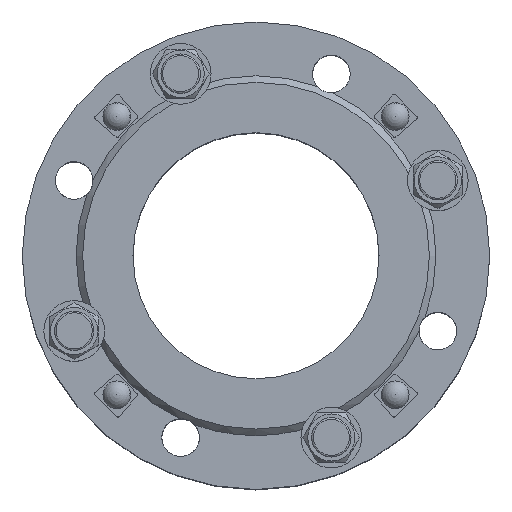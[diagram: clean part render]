
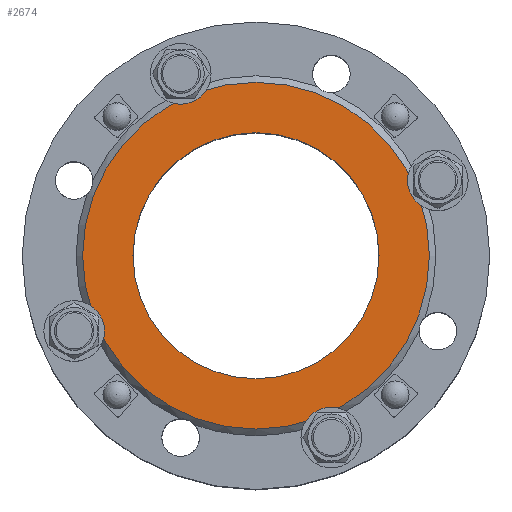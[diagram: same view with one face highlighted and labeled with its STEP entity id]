
A CAD part, top view. The second image highlights one B-rep face of the part: STEP entity #2674.
In plain terms, the highlighted planar face has unit normal (0, 0, 1) as drawn and (0, 0, -1) by its records, which use the part's own axes.
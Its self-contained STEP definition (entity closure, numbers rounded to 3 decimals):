
#2674=ADVANCED_FACE('',(#3899,#3901),#3903,.F.);
#3899=FACE_BOUND('',#3900,.T.);
#3900=EDGE_LOOP('',(#5651));
#3901=FACE_BOUND('',#3902,.T.);
#3902=EDGE_LOOP('',(#5652));
#3903=PLANE('',#3904);
#3904=AXIS2_PLACEMENT_3D('',#3905,#3906,#3907);
#3905=CARTESIAN_POINT('',(0.,0.,0.));
#3906=DIRECTION('',(0.,0.,1.));
#3907=DIRECTION('',(-1.,0.,0.));
#5651=ORIENTED_EDGE('',*,*,#6301,.F.);
#5652=ORIENTED_EDGE('',*,*,#6367,.T.);
#6301=EDGE_CURVE('',#7084,#7084,#7085,.T.);
#6367=EDGE_CURVE('',#7184,#7184,#7185,.T.);
#7084=VERTEX_POINT('',#12551);
#7085=CIRCLE('',#12552,105.7);
#7184=VERTEX_POINT('',#12801);
#7185=CIRCLE('',#12802,75.);
#12551=CARTESIAN_POINT('',(-105.7,0.,0.));
#12552=AXIS2_PLACEMENT_3D('',#12553,#12554,#12555);
#12553=CARTESIAN_POINT('',(0.,0.,0.));
#12554=DIRECTION('',(0.,0.,1.));
#12555=DIRECTION('',(-1.,0.,0.));
#12801=CARTESIAN_POINT('',(-75.,0.,0.));
#12802=AXIS2_PLACEMENT_3D('',#12803,#12804,#12805);
#12803=CARTESIAN_POINT('',(0.,0.,0.));
#12804=DIRECTION('',(0.,0.,1.));
#12805=DIRECTION('',(-1.,0.,0.));
